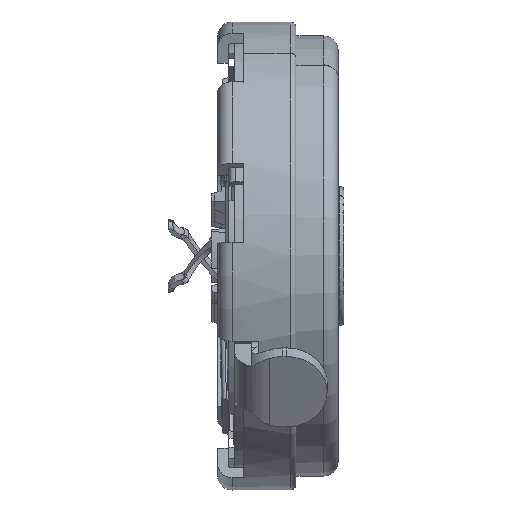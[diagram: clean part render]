
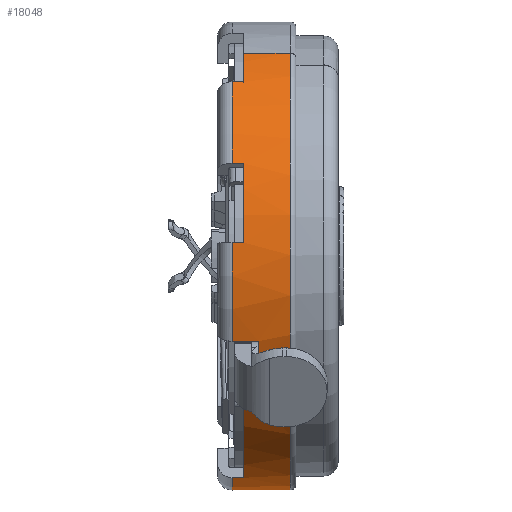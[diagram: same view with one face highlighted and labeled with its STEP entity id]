
A CAD part, top view. The second image highlights one B-rep face of the part: STEP entity #18048.
In plain terms, the highlighted cylindrical face has radius 4.04 mm (diameter 8.08 mm), a partial arc.
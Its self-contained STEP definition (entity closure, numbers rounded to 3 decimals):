
#16167=DIRECTION('',(1.,0.,0.));
#16168=VECTOR('',#16167,0.8);
#16169=CARTESIAN_POINT('',(0.51,7.324,
-2.4));
#16170=LINE('',#16169,#16168);
#16171=CARTESIAN_POINT('',(1.31,3.825,-4.42));
#16172=DIRECTION('',(1.,0.,0.));
#16173=DIRECTION('',(0.,0.866,0.5));
#16174=AXIS2_PLACEMENT_3D('',#16171,#16172,#16173);
#16176=CARTESIAN_POINT('',(1.31,3.825,-4.42));
#16177=DIRECTION('',(1.,0.,0.));
#16178=DIRECTION('',(0.,-0.869,-0.494));
#16179=AXIS2_PLACEMENT_3D('',#16176,#16177,#16178);
#16181=DIRECTION('',(-1.,0.,0.));
#16182=VECTOR('',#16181,0.8);
#16183=CARTESIAN_POINT('',(1.31,0.326,-6.44));
#16184=LINE('',#16183,#16182);
#16185=CARTESIAN_POINT('',(0.51,3.825,
-4.42));
#16186=DIRECTION('',(-1.,0.,0.));
#16187=DIRECTION('',(0.,-0.866,-0.5));
#16188=AXIS2_PLACEMENT_3D('',#16185,#16186,#16187);
#16190=DIRECTION('',(-1.,0.,0.));
#16191=VECTOR('',#16190,0.2);
#16192=CARTESIAN_POINT('',(0.51,-0.017,
-5.669));
#16193=LINE('',#16192,#16191);
#16194=DIRECTION('',(1.,0.,0.));
#16195=VECTOR('',#16194,0.2);
#16196=CARTESIAN_POINT('',(0.31,-0.006,
-3.138));
#16197=LINE('',#16196,#16195);
#16198=CARTESIAN_POINT('',(0.51,3.825,
-4.42));
#16199=DIRECTION('',(-1.,0.,0.));
#16200=DIRECTION('',(0.,-0.948,0.317));
#16201=AXIS2_PLACEMENT_3D('',#16198,#16199,#16200);
#16203=DIRECTION('',(1.,0.,0.));
#16204=VECTOR('',#16203,0.25);
#16205=CARTESIAN_POINT('',(0.51,1.308,
-1.26));
#16206=LINE('',#16205,#16204);
#16207=CARTESIAN_POINT('',(0.76,3.825,
-4.42));
#16208=DIRECTION('',(-1.,0.,0.));
#16209=DIRECTION('',(0.,-0.623,0.782));
#16210=AXIS2_PLACEMENT_3D('',#16207,#16208,#16209);
#16212=CARTESIAN_POINT('',(0.31,3.825,
-4.42));
#16213=DIRECTION('',(1.,0.,0.));
#16214=DIRECTION('',(0.,0.743,0.669));
#16215=AXIS2_PLACEMENT_3D('',#16212,#16213,#16214);
#16235=DIRECTION('',(-1.,0.,0.));
#16236=VECTOR('',#16235,0.2);
#16237=CARTESIAN_POINT('',(0.51,6.827,
-1.717));
#16238=LINE('',#16237,#16236);
#16267=CARTESIAN_POINT('',(0.51,3.825,
-4.42));
#16268=DIRECTION('',(1.,0.,0.));
#16269=DIRECTION('',(0.,0.866,0.5));
#16270=AXIS2_PLACEMENT_3D('',#16267,#16268,#16269);
#16546=DIRECTION('',(1.,0.,0.));
#16547=VECTOR('',#16546,0.2);
#16548=CARTESIAN_POINT('',(0.31,5.417,
-0.707));
#16549=LINE('',#16548,#16547);
#16580=CARTESIAN_POINT('',(0.51,3.825,
-4.42));
#16581=DIRECTION('',(1.,0.,0.));
#16582=DIRECTION('',(0.,0.394,0.919));
#16583=AXIS2_PLACEMENT_3D('',#16580,#16581,#16582);
#16593=DIRECTION('',(-1.,0.,0.));
#16594=VECTOR('',#16593,0.2);
#16595=CARTESIAN_POINT('',(0.51,4.051,
-0.387));
#16596=LINE('',#16595,#16594);
#16616=CARTESIAN_POINT('',(0.31,3.825,
-4.42));
#16617=DIRECTION('',(1.,0.,0.));
#16618=DIRECTION('',(0.,0.056,0.998));
#16619=AXIS2_PLACEMENT_3D('',#16616,#16617,#16618);
#16663=CARTESIAN_POINT('',(0.31,2.347,
-0.66));
#16665=DIRECTION('',(1.,0.,0.));
#16666=VECTOR('',#16665,0.45);
#16667=CARTESIAN_POINT('',(0.31,2.347,
-0.66));
#16668=LINE('',#16667,#16666);
#16696=CARTESIAN_POINT('',(0.31,3.825,
-4.42));
#16697=DIRECTION('',(1.,0.,0.));
#16698=DIRECTION('',(0.,-0.948,0.317));
#16699=AXIS2_PLACEMENT_3D('',#16696,#16697,#16698);
#17196=CARTESIAN_POINT('',(0.51,1.308,
-1.26));
#17198=VERTEX_POINT('',#17196);
#17199=CARTESIAN_POINT('',(0.76,1.308,
-1.26));
#17200=VERTEX_POINT('',#17199);
#17201=CARTESIAN_POINT('',(0.76,2.347,
-0.66));
#17202=VERTEX_POINT('',#17201);
#17355=CARTESIAN_POINT('',(0.31,4.051,
-0.387));
#17357=VERTEX_POINT('',#17355);
#17358=CARTESIAN_POINT('',(0.51,4.051,
-0.387));
#17359=VERTEX_POINT('',#17358);
#17388=CARTESIAN_POINT('',(0.31,6.827,
-1.717));
#17390=VERTEX_POINT('',#17388);
#17392=CARTESIAN_POINT('',(0.51,6.827,
-1.717));
#17393=VERTEX_POINT('',#17392);
#17394=CARTESIAN_POINT('',(0.51,5.417,
-0.707));
#17395=VERTEX_POINT('',#17394);
#17398=CARTESIAN_POINT('',(0.51,0.326,
-6.44));
#17399=VERTEX_POINT('',#17398);
#17400=CARTESIAN_POINT('',(0.51,-0.017,
-5.669));
#17401=VERTEX_POINT('',#17400);
#17402=CARTESIAN_POINT('',(0.51,7.324,
-2.4));
#17403=VERTEX_POINT('',#17402);
#17412=CARTESIAN_POINT('',(1.31,7.324,-2.4));
#17413=CARTESIAN_POINT('',(1.31,0.313,-6.417));
#17414=VERTEX_POINT('',#17412);
#17415=VERTEX_POINT('',#17413);
#17416=CARTESIAN_POINT('',(1.31,0.326,-6.44));
#17417=VERTEX_POINT('',#17416);
#17430=CARTESIAN_POINT('',(0.51,-0.006,
-3.138));
#17431=VERTEX_POINT('',#17430);
#17436=CARTESIAN_POINT('',(0.31,5.417,
-0.707));
#17437=VERTEX_POINT('',#17436);
#17452=CARTESIAN_POINT('',(0.31,-0.006,
-3.138));
#17453=CARTESIAN_POINT('',(0.31,-0.017,
-5.669));
#17454=VERTEX_POINT('',#17452);
#17455=VERTEX_POINT('',#17453);
#17463=VERTEX_POINT('',#16663);
#18011=CARTESIAN_POINT('',(1.33,3.825,-4.42));
#18012=DIRECTION('',(-1.,0.,0.));
#18013=DIRECTION('',(0.,0.866,0.5));
#18014=AXIS2_PLACEMENT_3D('',#18011,#18012,#18013);
#18015=CYLINDRICAL_SURFACE('',#18014,4.04);
#18017=ORIENTED_EDGE('',*,*,#18016,.F.);
#18019=ORIENTED_EDGE('',*,*,#18018,.F.);
#18021=ORIENTED_EDGE('',*,*,#18020,.F.);
#18022=ORIENTED_EDGE('',*,*,#17817,.T.);
#18023=ORIENTED_EDGE('',*,*,#17779,.T.);
#18024=ORIENTED_EDGE('',*,*,#17777,.T.);
#18025=ORIENTED_EDGE('',*,*,#17813,.T.);
#18026=ORIENTED_EDGE('',*,*,#17926,.T.);
#18027=ORIENTED_EDGE('',*,*,#17952,.T.);
#18029=ORIENTED_EDGE('',*,*,#18028,.F.);
#18030=ORIENTED_EDGE('',*,*,#17986,.T.);
#18031=ORIENTED_EDGE('',*,*,#18003,.T.);
#18033=ORIENTED_EDGE('',*,*,#18032,.T.);
#18035=ORIENTED_EDGE('',*,*,#18034,.T.);
#18037=ORIENTED_EDGE('',*,*,#18036,.F.);
#18039=ORIENTED_EDGE('',*,*,#18038,.F.);
#18041=ORIENTED_EDGE('',*,*,#18040,.F.);
#18043=ORIENTED_EDGE('',*,*,#18042,.F.);
#18045=ORIENTED_EDGE('',*,*,#18044,.F.);
#18046=EDGE_LOOP('',(#18017,#18019,#18021,#18022,#18023,#18024,#18025,#18026,
#18027,#18029,#18030,#18031,#18033,#18035,#18037,#18039,#18041,#18043,#18045));
#18047=FACE_OUTER_BOUND('',#18046,.F.);
#18048=ADVANCED_FACE('',(#18047),#18015,.T.);
#16175=CIRCLE('',#16174,4.04);
#16180=CIRCLE('',#16179,4.04);
#16189=CIRCLE('',#16188,4.04);
#16202=CIRCLE('',#16201,4.04);
#16211=CIRCLE('',#16210,4.04);
#16216=CIRCLE('',#16215,4.04);
#16271=CIRCLE('',#16270,4.04);
#16584=CIRCLE('',#16583,4.04);
#16620=CIRCLE('',#16619,4.04);
#16700=CIRCLE('',#16699,4.04);
#17777=EDGE_CURVE('',#17415,#17417,#16180,.T.);
#17779=EDGE_CURVE('',#17414,#17415,#16175,.T.);
#17813=EDGE_CURVE('',#17417,#17399,#16184,.T.);
#17817=EDGE_CURVE('',#17403,#17414,#16170,.T.);
#17926=EDGE_CURVE('',#17399,#17401,#16189,.T.);
#17952=EDGE_CURVE('',#17401,#17455,#16193,.T.);
#17986=EDGE_CURVE('',#17454,#17431,#16197,.T.);
#18003=EDGE_CURVE('',#17431,#17198,#16202,.T.);
#18016=EDGE_CURVE('',#17390,#17437,#16216,.T.);
#18018=EDGE_CURVE('',#17393,#17390,#16238,.T.);
#18020=EDGE_CURVE('',#17403,#17393,#16271,.T.);
#18028=EDGE_CURVE('',#17454,#17455,#16700,.T.);
#18032=EDGE_CURVE('',#17198,#17200,#16206,.T.);
#18034=EDGE_CURVE('',#17200,#17202,#16211,.T.);
#18036=EDGE_CURVE('',#17463,#17202,#16668,.T.);
#18038=EDGE_CURVE('',#17357,#17463,#16620,.T.);
#18040=EDGE_CURVE('',#17359,#17357,#16596,.T.);
#18042=EDGE_CURVE('',#17395,#17359,#16584,.T.);
#18044=EDGE_CURVE('',#17437,#17395,#16549,.T.);
